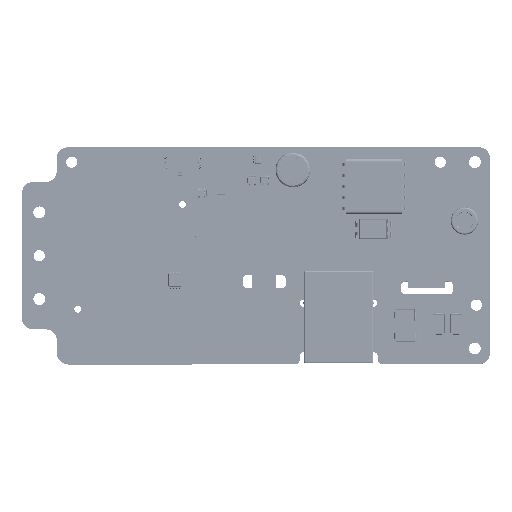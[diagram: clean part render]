
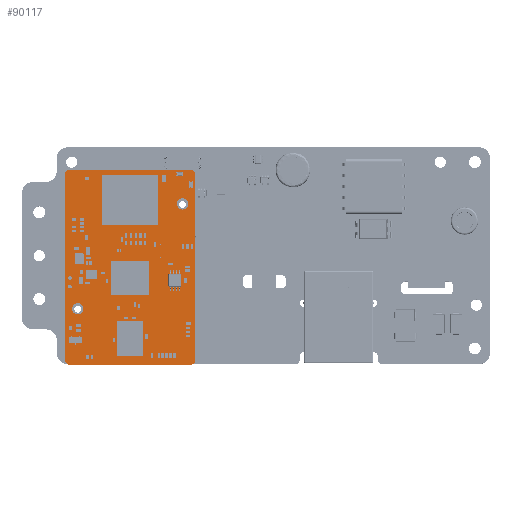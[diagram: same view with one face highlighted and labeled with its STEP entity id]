
A CAD part, top view. The second image highlights one B-rep face of the part: STEP entity #90117.
In plain terms, the highlighted planar face has unit normal (0, 0, 1).
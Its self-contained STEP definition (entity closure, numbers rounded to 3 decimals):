
#89564 = VERTEX_POINT('',#89565);
#89565 = CARTESIAN_POINT('',(39.95,43.85,
    4.));
#89571 = EDGE_CURVE('',#89564,#89572,#89574,.T.);
#89572 = VERTEX_POINT('',#89573);
#89573 = CARTESIAN_POINT('',(39.95,0.85,
    4.));
#89574 = LINE('',#89575,#89576);
#89575 = CARTESIAN_POINT('',(39.95,43.85,
    4.));
#89576 = VECTOR('',#89577,1.);
#89577 = DIRECTION('',(0.,-1.,0.));
#89602 = EDGE_CURVE('',#89572,#89603,#89605,.T.);
#89603 = VERTEX_POINT('',#89604);
#89604 = CARTESIAN_POINT('',(38.95,-0.15,
    4.));
#89605 = CIRCLE('',#89606,1.);
#89606 = AXIS2_PLACEMENT_3D('',#89607,#89608,#89609);
#89607 = CARTESIAN_POINT('',(38.95,0.85,
    4.));
#89608 = DIRECTION('',(0.,0.,-1.));
#89609 = DIRECTION('',(1.,0.,0.));
#89635 = EDGE_CURVE('',#89603,#89636,#89638,.T.);
#89636 = VERTEX_POINT('',#89637);
#89637 = CARTESIAN_POINT('',(10.95,-0.15,
    4.));
#89638 = LINE('',#89639,#89640);
#89639 = CARTESIAN_POINT('',(38.95,-0.15,
    4.));
#89640 = VECTOR('',#89641,1.);
#89641 = DIRECTION('',(-1.,0.,0.));
#89666 = EDGE_CURVE('',#89636,#89667,#89669,.T.);
#89667 = VERTEX_POINT('',#89668);
#89668 = CARTESIAN_POINT('',(9.95,0.85,
    4.));
#89669 = CIRCLE('',#89670,1.);
#89670 = AXIS2_PLACEMENT_3D('',#89671,#89672,#89673);
#89671 = CARTESIAN_POINT('',(10.95,0.85,
    4.));
#89672 = DIRECTION('',(0.,0.,-1.));
#89673 = DIRECTION('',(0.,-1.,0.));
#89699 = EDGE_CURVE('',#89667,#89700,#89702,.T.);
#89700 = VERTEX_POINT('',#89701);
#89701 = CARTESIAN_POINT('',(9.95,43.85,
    4.));
#89702 = LINE('',#89703,#89704);
#89703 = CARTESIAN_POINT('',(9.95,0.85,
    4.));
#89704 = VECTOR('',#89705,1.);
#89705 = DIRECTION('',(0.,1.,0.));
#89730 = EDGE_CURVE('',#89700,#89731,#89733,.T.);
#89731 = VERTEX_POINT('',#89732);
#89732 = CARTESIAN_POINT('',(10.95,44.85,4.)
  );
#89733 = CIRCLE('',#89734,1.);
#89734 = AXIS2_PLACEMENT_3D('',#89735,#89736,#89737);
#89735 = CARTESIAN_POINT('',(10.95,43.85,
    4.));
#89736 = DIRECTION('',(0.,0.,-1.));
#89737 = DIRECTION('',(-1.,0.,0.));
#89763 = EDGE_CURVE('',#89731,#89764,#89766,.T.);
#89764 = VERTEX_POINT('',#89765);
#89765 = CARTESIAN_POINT('',(38.95,44.85,4.)
  );
#89766 = LINE('',#89767,#89768);
#89767 = CARTESIAN_POINT('',(10.95,44.85,4.)
  );
#89768 = VECTOR('',#89769,1.);
#89769 = DIRECTION('',(1.,0.,0.));
#89794 = EDGE_CURVE('',#89764,#89564,#89795,.T.);
#89795 = CIRCLE('',#89796,1.);
#89796 = AXIS2_PLACEMENT_3D('',#89797,#89798,#89799);
#89797 = CARTESIAN_POINT('',(38.95,43.85,
    4.));
#89798 = DIRECTION('',(0.,0.,-1.));
#89799 = DIRECTION('',(0.,1.,0.));
#89827 = VERTEX_POINT('',#89828);
#89828 = CARTESIAN_POINT('',(35.75,36.95,
    4.));
#89834 = EDGE_CURVE('',#89827,#89827,#89835,.T.);
#89835 = CIRCLE('',#89836,1.3);
#89836 = AXIS2_PLACEMENT_3D('',#89837,#89838,#89839);
#89837 = CARTESIAN_POINT('',(37.05,36.95,
    4.));
#89838 = DIRECTION('',(0.,0.,1.));
#89839 = DIRECTION('',(-1.,0.,0.));
#89860 = VERTEX_POINT('',#89861);
#89861 = CARTESIAN_POINT('',(31.826,27.54,
    4.));
#89867 = EDGE_CURVE('',#89860,#89860,#89868,.T.);
#89868 = CIRCLE('',#89869,0.102);
#89869 = AXIS2_PLACEMENT_3D('',#89870,#89871,#89872);
#89870 = CARTESIAN_POINT('',(31.928,27.54,
    4.));
#89871 = DIRECTION('',(0.,0.,1.));
#89872 = DIRECTION('',(-1.,0.,0.));
#89893 = VERTEX_POINT('',#89894);
#89894 = CARTESIAN_POINT('',(33.301,26.065,
    4.));
#89900 = EDGE_CURVE('',#89893,#89893,#89901,.T.);
#89901 = CIRCLE('',#89902,0.102);
#89902 = AXIS2_PLACEMENT_3D('',#89903,#89904,#89905);
#89903 = CARTESIAN_POINT('',(33.403,26.065,
    4.));
#89904 = DIRECTION('',(0.,0.,1.));
#89905 = DIRECTION('',(-1.,0.,0.));
#89926 = VERTEX_POINT('',#89927);
#89927 = CARTESIAN_POINT('',(31.826,24.59,
    4.));
#89933 = EDGE_CURVE('',#89926,#89926,#89934,.T.);
#89934 = CIRCLE('',#89935,0.102);
#89935 = AXIS2_PLACEMENT_3D('',#89936,#89937,#89938);
#89936 = CARTESIAN_POINT('',(31.928,24.59,
    4.));
#89937 = DIRECTION('',(0.,0.,1.));
#89938 = DIRECTION('',(-1.,0.,0.));
#89959 = VERTEX_POINT('',#89960);
#89960 = CARTESIAN_POINT('',(30.351,26.065,
    4.));
#89966 = EDGE_CURVE('',#89959,#89959,#89967,.T.);
#89967 = CIRCLE('',#89968,0.102);
#89968 = AXIS2_PLACEMENT_3D('',#89969,#89970,#89971);
#89969 = CARTESIAN_POINT('',(30.453,26.065,
    4.));
#89970 = DIRECTION('',(0.,0.,1.));
#89971 = DIRECTION('',(-1.,0.,0.));
#89992 = VERTEX_POINT('',#89993);
#89993 = CARTESIAN_POINT('',(10.621,19.85,
    4.));
#89999 = EDGE_CURVE('',#89992,#89992,#90000,.T.);
#90000 = CIRCLE('',#90001,0.43);
#90001 = AXIS2_PLACEMENT_3D('',#90002,#90003,#90004);
#90002 = CARTESIAN_POINT('',(11.051,19.85,
    4.));
#90003 = DIRECTION('',(0.,0.,1.));
#90004 = DIRECTION('',(-1.,0.,0.));
#90025 = VERTEX_POINT('',#90026);
#90026 = CARTESIAN_POINT('',(11.55,12.75,
    4.));
#90032 = EDGE_CURVE('',#90025,#90025,#90033,.T.);
#90033 = CIRCLE('',#90034,1.3);
#90034 = AXIS2_PLACEMENT_3D('',#90035,#90036,#90037);
#90035 = CARTESIAN_POINT('',(12.85,12.75,
    4.));
#90036 = DIRECTION('',(0.,0.,1.));
#90037 = DIRECTION('',(-1.,0.,0.));
#90058 = VERTEX_POINT('',#90059);
#90059 = CARTESIAN_POINT('',(10.621,17.85,
    4.));
#90065 = EDGE_CURVE('',#90058,#90058,#90066,.T.);
#90066 = CIRCLE('',#90067,0.43);
#90067 = AXIS2_PLACEMENT_3D('',#90068,#90069,#90070);
#90068 = CARTESIAN_POINT('',(11.051,17.85,
    4.));
#90069 = DIRECTION('',(0.,0.,1.));
#90070 = DIRECTION('',(-1.,0.,0.));
#90117 = ADVANCED_FACE('',(#90118,#90128,#90131,#90134,#90137,#90140,
    #90143,#90146,#90149),#90152,.T.);
#90118 = FACE_BOUND('',#90119,.F.);
#90119 = EDGE_LOOP('',(#90120,#90121,#90122,#90123,#90124,#90125,#90126,
    #90127));
#90120 = ORIENTED_EDGE('',*,*,#89571,.T.);
#90121 = ORIENTED_EDGE('',*,*,#89602,.T.);
#90122 = ORIENTED_EDGE('',*,*,#89635,.T.);
#90123 = ORIENTED_EDGE('',*,*,#89666,.T.);
#90124 = ORIENTED_EDGE('',*,*,#89699,.T.);
#90125 = ORIENTED_EDGE('',*,*,#89730,.T.);
#90126 = ORIENTED_EDGE('',*,*,#89763,.T.);
#90127 = ORIENTED_EDGE('',*,*,#89794,.T.);
#90128 = FACE_BOUND('',#90129,.T.);
#90129 = EDGE_LOOP('',(#90130));
#90130 = ORIENTED_EDGE('',*,*,#89834,.F.);
#90131 = FACE_BOUND('',#90132,.T.);
#90132 = EDGE_LOOP('',(#90133));
#90133 = ORIENTED_EDGE('',*,*,#89867,.F.);
#90134 = FACE_BOUND('',#90135,.T.);
#90135 = EDGE_LOOP('',(#90136));
#90136 = ORIENTED_EDGE('',*,*,#89900,.F.);
#90137 = FACE_BOUND('',#90138,.T.);
#90138 = EDGE_LOOP('',(#90139));
#90139 = ORIENTED_EDGE('',*,*,#89933,.F.);
#90140 = FACE_BOUND('',#90141,.T.);
#90141 = EDGE_LOOP('',(#90142));
#90142 = ORIENTED_EDGE('',*,*,#89966,.F.);
#90143 = FACE_BOUND('',#90144,.T.);
#90144 = EDGE_LOOP('',(#90145));
#90145 = ORIENTED_EDGE('',*,*,#89999,.F.);
#90146 = FACE_BOUND('',#90147,.T.);
#90147 = EDGE_LOOP('',(#90148));
#90148 = ORIENTED_EDGE('',*,*,#90032,.F.);
#90149 = FACE_BOUND('',#90150,.T.);
#90150 = EDGE_LOOP('',(#90151));
#90151 = ORIENTED_EDGE('',*,*,#90065,.F.);
#90152 = PLANE('',#90153);
#90153 = AXIS2_PLACEMENT_3D('',#90154,#90155,#90156);
#90154 = CARTESIAN_POINT('',(39.95,43.85,
    4.));
#90155 = DIRECTION('',(0.,0.,1.));
#90156 = DIRECTION('',(-1.,0.,0.));
